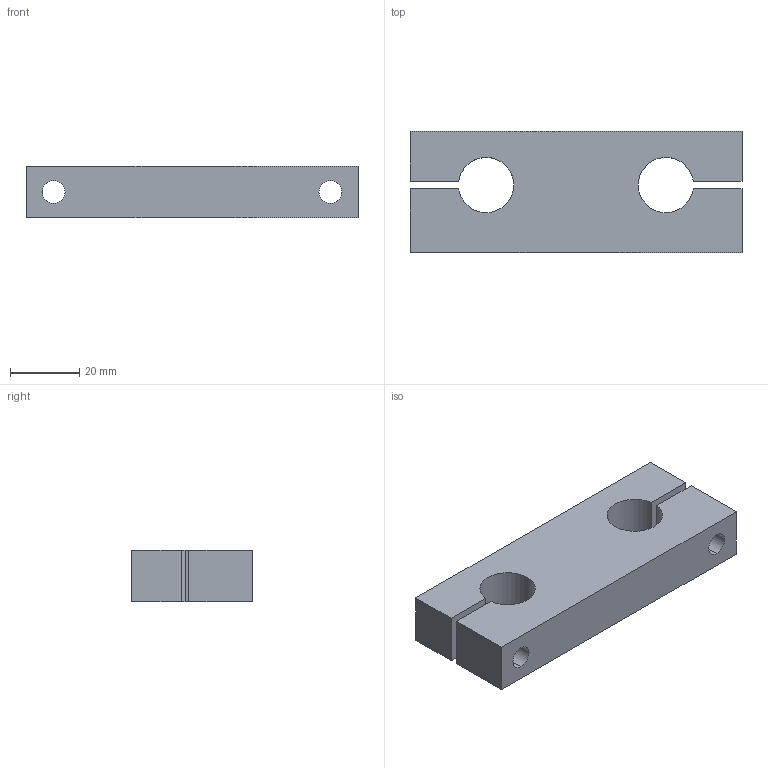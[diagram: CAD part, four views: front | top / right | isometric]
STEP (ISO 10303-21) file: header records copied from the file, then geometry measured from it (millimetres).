
FILE_DESCRIPTION (( 'STEP AP214' ), '1' );
FILE_NAME ('KTAC-16.step', '2020-03-04T13:12:26', ( '' ), ( '' ), 'SwSTEP 2.0', 'SolidWorks 2019', '' );
FILE_SCHEMA (( 'AUTOMOTIVE_DESIGN' ));
Length unit declared in the file: millimetre
Products named in the file (1): KTAC-16
Bounding box: 96 x 35 x 15 mm (x, y, z)
Volume: 40164.9 mm3; surface area: 13289.9 mm2
Topology: 1 solids, 1 shells, 35 faces, 89 edges, 57 vertices
Faces by surface type: cylinder 17, plane 14, cone 4
Entity records: 1103 total; most frequent: DIRECTION 195, CARTESIAN_POINT 180, ORIENTED_EDGE 174, EDGE_CURVE 87, AXIS2_PLACEMENT_3D 72, VERTEX_POINT 57, VECTOR 51, LINE 51
